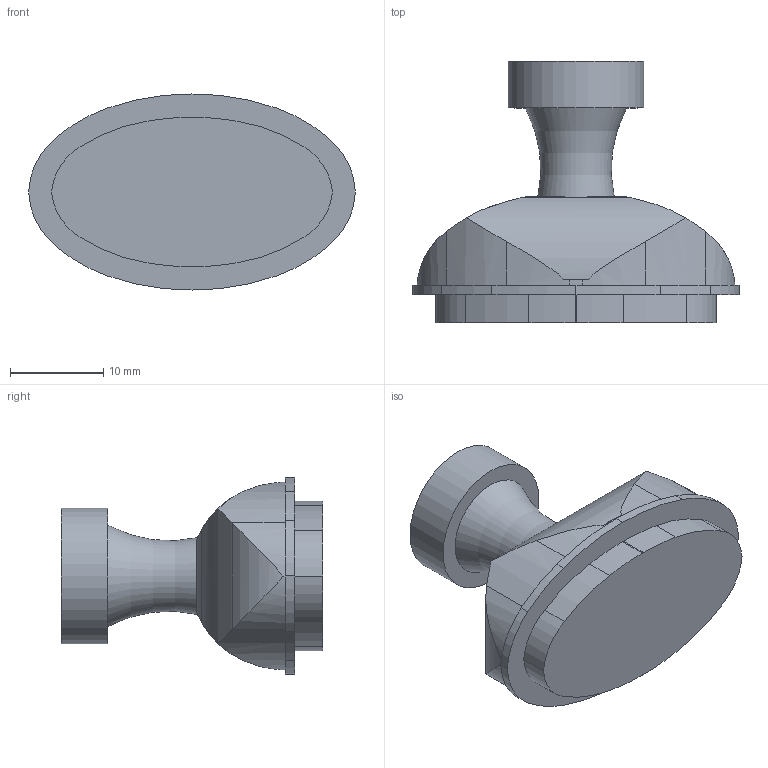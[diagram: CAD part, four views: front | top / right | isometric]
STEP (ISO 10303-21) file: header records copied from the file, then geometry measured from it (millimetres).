
FILE_DESCRIPTION( ( 'STEP AP214' ), '1' );
FILE_NAME( 'C:/Users/swati/Desktop/New folder/NEW/9113236/9113236.stp', ' ', ( ' ' ), ( ' ' ), 'PSStep 15.0.47', 'PARTsolutions', ' ' );
FILE_SCHEMA( ( 'AUTOMOTIVE_DESIGN { 1 0 10303 214 1 1 1 1 }' ) );
Length unit declared in the file: millimetre
Products named in the file (2): 95 ; _
Assembly tree (1 placements, depth 2):
  95 
    _
Bounding box: 35 x 28 x 21 mm (x, y, z)
Volume: 6997.9 mm3; surface area: 2761.1 mm2
Topology: 1 solids, 1 shells, 65 faces, 177 edges, 118 vertices
Faces by surface type: cylinder 51, plane 13, torus 1
Full cylindrical faces by diameter (mm): 4 x1, 14.5 x1
Entity records: 2762 total; most frequent: CARTESIAN_POINT 557, DIRECTION 356, ORIENTED_EDGE 346, EDGE_CURVE 173, AXIS2_PLACEMENT_3D 148, VERTEX_POINT 117, CIRCLE 79, EDGE_LOOP 72
